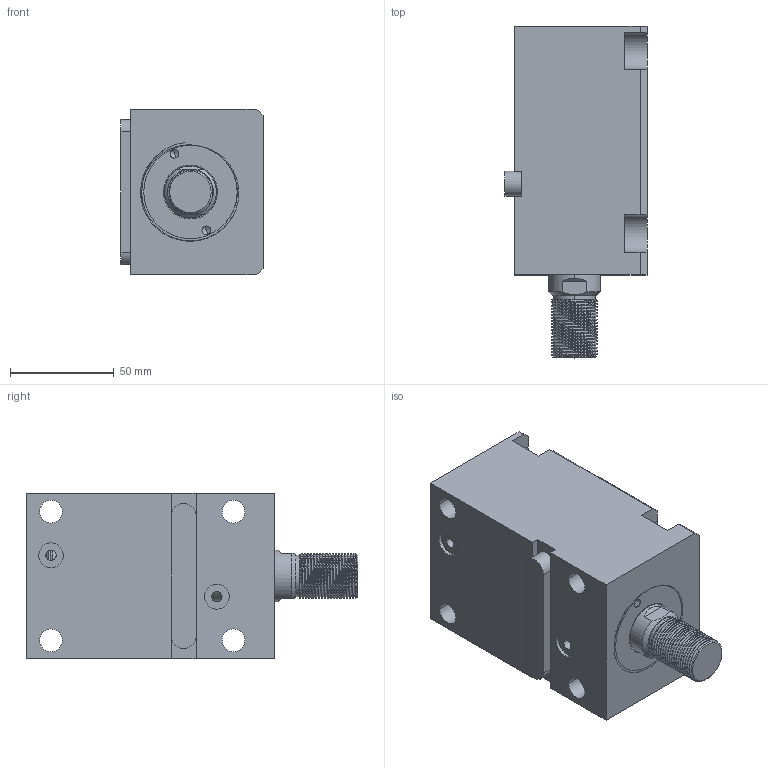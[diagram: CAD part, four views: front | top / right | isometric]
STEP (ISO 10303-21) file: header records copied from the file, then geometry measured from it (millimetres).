
FILE_DESCRIPTION (( 'STEP AP214' ), '1' );
FILE_NAME ('chtb-lam40x65w_asm.STEP', '2018-05-30T03:00:50', ( 'Windows' ), ( 'Microsoft' ), 'SwSTEP 2.0', 'SolidWorks 2015', '' );
FILE_SCHEMA (( 'AUTOMOTIVE_DESIGN' ));
Length unit declared in the file: millimetre
Products named in the file (5): CHTB-SD40X65WHSG; CHTB-SD40QG; CHTB-LAM40X65NBT; CHTB-LA40PJ; chtb-lam40x65w_asm
Assembly tree (4 placements, depth 2):
  chtb-lam40x65w_asm
    CHTB-LA40PJ
    CHTB-LAM40X65NBT
    CHTB-SD40QG
    CHTB-SD40X65WHSG
Bounding box: 68.5 x 160 x 80 mm (x, y, z)
Volume: 544778.4 mm3; surface area: 98547.8 mm2
Topology: 4 solids, 5 shells, 199 faces, 547 edges, 365 vertices
Faces by surface type: cylinder 111, plane 50, bspline 16, torus 12, cone 10
Entity records: 13609 total; most frequent: CARTESIAN_POINT 8674, ORIENTED_EDGE 1082, DIRECTION 894, EDGE_CURVE 541, VERTEX_POINT 365, AXIS2_PLACEMENT_3D 349, EDGE_LOOP 226, ADVANCED_FACE 199
